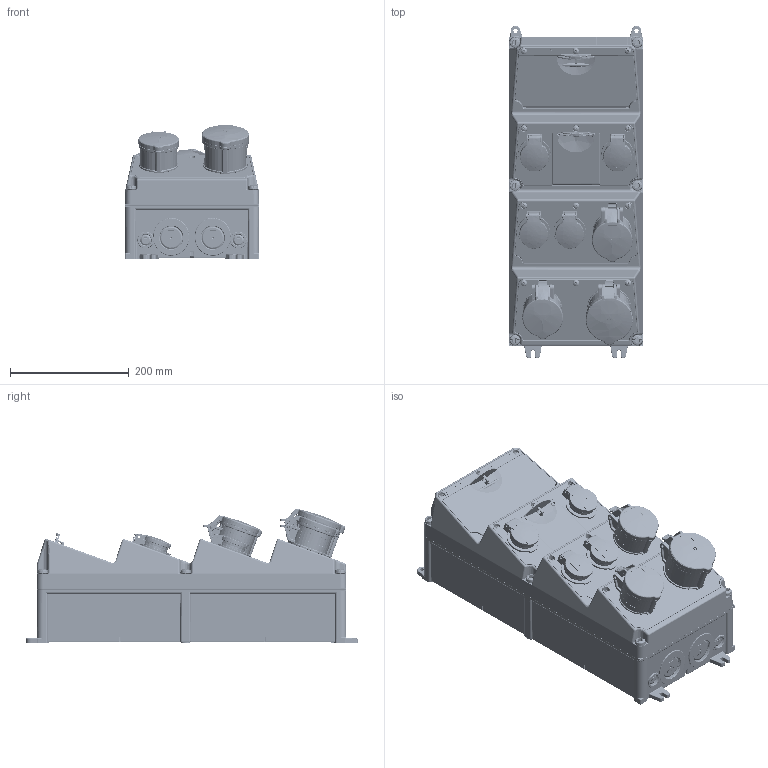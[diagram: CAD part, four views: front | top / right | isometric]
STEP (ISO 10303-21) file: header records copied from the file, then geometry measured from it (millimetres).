
FILE_DESCRIPTION((''),'2;1');
FILE_NAME('940012-3_ASM_1_ASM','2018-05-07T',('hoffmannf'),('MENNEKES'),'PRO/ENGINEER BY PARAMETRIC TECHNOLOGY CORPORATION, 2015440','PRO/ENGINEER BY PARAMETRIC TECHNOLOGY CORPORATION, 2015440','');
FILE_SCHEMA(('AUTOMOTIVE_DESIGN { 1 0 10303 214 1 1 1 1 }'));
Products named in the file (11): 4-4_SW_O_GRAU_1; LS_3POL_3TE_1; LS_1POL_1TE_1; MP_LEER_GRAU_1; MP_FEN4_44_OBEN_GRAU_1; MP_FEN10_44_OBEN_GRAU_1; BAUTEIL_DUMMY__1; AMAXX_CEE_32_5_44_ROT_1; AMAXX_CEE_16_5_44_ROT_1; AMAXX_SCHUKO_44_BLAU_1; 940012-3_ASM_1_ASM
Assembly tree (20 placements, depth 2):
  940012-3_ASM_1_ASM
    4-4_SW_O_GRAU_1
    LS_3POL_3TE_1  x3
    LS_1POL_1TE_1  x4
    MP_LEER_GRAU_1  x2
    MP_FEN4_44_OBEN_GRAU_1
    MP_FEN10_44_OBEN_GRAU_1
    BAUTEIL_DUMMY__1
    AMAXX_CEE_32_5_44_ROT_1
    AMAXX_CEE_16_5_44_ROT_1  x2
    AMAXX_SCHUKO_44_BLAU_1  x4
Bounding box: 225 x 558.2 x 225.76 mm (x, y, z)
Volume: 13681752 mm3; surface area: 1443382.9 mm2
Topology: 19 solids, 19 shells, 15447 faces, 42853 edges, 27529 vertices
Faces by surface type: plane 7310, cylinder 4381, bspline 1358, torus 1355, cone 408, sphere 362, extrusion 273
Entity records: 473508 total; most frequent: CARTESIAN_POINT 147295, ORIENTED_EDGE 55358, DIRECTION 48423, EDGE_CURVE 27679, VERTEX_POINT 17633, AXIS2_PLACEMENT_3D 17191, VECTOR 14041, LINE 13893
